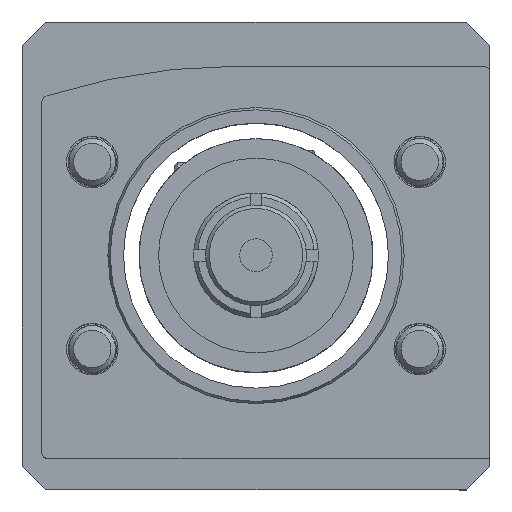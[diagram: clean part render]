
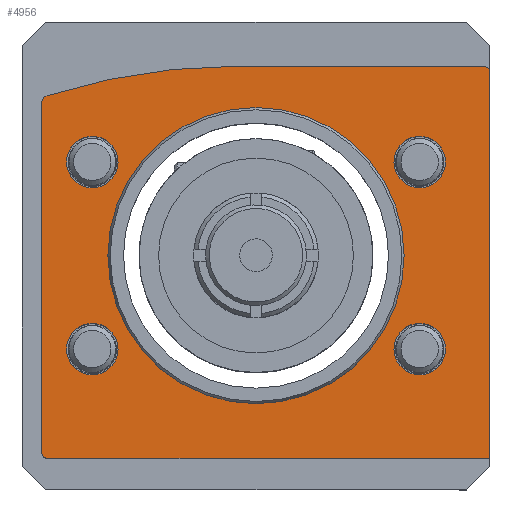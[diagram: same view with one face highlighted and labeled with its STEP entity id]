
A CAD part, top view. The second image highlights one B-rep face of the part: STEP entity #4956.
In plain terms, the highlighted planar face has unit normal (0, 0, 1).
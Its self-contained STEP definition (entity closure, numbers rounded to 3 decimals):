
#317=LINE('',#7690,#526);
#321=LINE('',#7702,#530);
#325=LINE('',#7714,#534);
#329=LINE('',#7725,#538);
#526=VECTOR('',#6073,31.7);
#530=VECTOR('',#6085,49.3);
#534=VECTOR('',#6097,56.5);
#538=VECTOR('',#6109,44.766);
#739=PLANE('',#5338);
#948=FACE_BOUND('',#1436,.T.);
#949=FACE_BOUND('',#1437,.T.);
#950=FACE_BOUND('',#1438,.T.);
#951=FACE_BOUND('',#1439,.T.);
#952=FACE_BOUND('',#1440,.T.);
#1074=FACE_OUTER_BOUND('',#1435,.T.);
#1435=EDGE_LOOP('',(#3497,#3498,#3499,#3500,#3501,#3502,#3503,#3504,#3505));
#1436=EDGE_LOOP('',(#3506));
#1437=EDGE_LOOP('',(#3507));
#1438=EDGE_LOOP('',(#3508));
#1439=EDGE_LOOP('',(#3509));
#1440=EDGE_LOOP('',(#3510));
#1865=CIRCLE('',#5293,3.3);
#1867=CIRCLE('',#5296,3.3);
#1869=CIRCLE('',#5299,3.3);
#1871=CIRCLE('',#5302,3.3);
#1875=CIRCLE('',#5308,19.);
#1880=CIRCLE('',#5319,1.);
#1882=CIRCLE('',#5322,80.);
#1884=CIRCLE('',#5326,0.8);
#1886=CIRCLE('',#5330,0.2);
#1888=CIRCLE('',#5334,0.8);
#2224=VERTEX_POINT('',#7633);
#2226=VERTEX_POINT('',#7638);
#2228=VERTEX_POINT('',#7643);
#2230=VERTEX_POINT('',#7648);
#2234=VERTEX_POINT('',#7658);
#2239=VERTEX_POINT('',#7674);
#2240=VERTEX_POINT('',#7675);
#2243=VERTEX_POINT('',#7683);
#2245=VERTEX_POINT('',#7689);
#2247=VERTEX_POINT('',#7695);
#2249=VERTEX_POINT('',#7701);
#2251=VERTEX_POINT('',#7707);
#2253=VERTEX_POINT('',#7713);
#2255=VERTEX_POINT('',#7719);
#2708=EDGE_CURVE('',#2224,#2224,#1865,.T.);
#2710=EDGE_CURVE('',#2226,#2226,#1867,.T.);
#2712=EDGE_CURVE('',#2228,#2228,#1869,.T.);
#2714=EDGE_CURVE('',#2230,#2230,#1871,.T.);
#2718=EDGE_CURVE('',#2234,#2234,#1875,.T.);
#2723=EDGE_CURVE('',#2239,#2240,#1880,.T.);
#2727=EDGE_CURVE('',#2240,#2243,#1882,.T.);
#2730=EDGE_CURVE('',#2243,#2245,#317,.T.);
#2733=EDGE_CURVE('',#2245,#2247,#1884,.T.);
#2736=EDGE_CURVE('',#2247,#2249,#321,.T.);
#2739=EDGE_CURVE('',#2249,#2251,#1886,.T.);
#2742=EDGE_CURVE('',#2251,#2253,#325,.T.);
#2745=EDGE_CURVE('',#2253,#2255,#1888,.T.);
#2748=EDGE_CURVE('',#2255,#2239,#329,.T.);
#3497=ORIENTED_EDGE('',*,*,#2723,.F.);
#3498=ORIENTED_EDGE('',*,*,#2748,.F.);
#3499=ORIENTED_EDGE('',*,*,#2745,.F.);
#3500=ORIENTED_EDGE('',*,*,#2742,.F.);
#3501=ORIENTED_EDGE('',*,*,#2739,.F.);
#3502=ORIENTED_EDGE('',*,*,#2736,.F.);
#3503=ORIENTED_EDGE('',*,*,#2733,.F.);
#3504=ORIENTED_EDGE('',*,*,#2730,.F.);
#3505=ORIENTED_EDGE('',*,*,#2727,.F.);
#3506=ORIENTED_EDGE('',*,*,#2708,.T.);
#3507=ORIENTED_EDGE('',*,*,#2710,.T.);
#3508=ORIENTED_EDGE('',*,*,#2712,.T.);
#3509=ORIENTED_EDGE('',*,*,#2714,.T.);
#3510=ORIENTED_EDGE('',*,*,#2718,.T.);
#4956=ADVANCED_FACE('',(#1074,#948,#949,#950,#951,#952),#739,.T.);
#5293=AXIS2_PLACEMENT_3D('',#7634,#6006,#6007);
#5296=AXIS2_PLACEMENT_3D('',#7639,#6012,#6013);
#5299=AXIS2_PLACEMENT_3D('',#7644,#6018,#6019);
#5302=AXIS2_PLACEMENT_3D('',#7649,#6024,#6025);
#5308=AXIS2_PLACEMENT_3D('',#7659,#6036,#6037);
#5319=AXIS2_PLACEMENT_3D('',#7676,#6058,#6059);
#5322=AXIS2_PLACEMENT_3D('',#7684,#6066,#6067);
#5326=AXIS2_PLACEMENT_3D('',#7696,#6078,#6079);
#5330=AXIS2_PLACEMENT_3D('',#7708,#6090,#6091);
#5334=AXIS2_PLACEMENT_3D('',#7720,#6102,#6103);
#5338=AXIS2_PLACEMENT_3D('',#7728,#6113,#6114);
#6006=DIRECTION('center_axis',(0.,0.,-1.));
#6007=DIRECTION('ref_axis',(0.,1.,0.));
#6012=DIRECTION('center_axis',(0.,0.,-1.));
#6013=DIRECTION('ref_axis',(0.,1.,0.));
#6018=DIRECTION('center_axis',(0.,0.,-1.));
#6019=DIRECTION('ref_axis',(0.,1.,0.));
#6024=DIRECTION('center_axis',(0.,0.,-1.));
#6025=DIRECTION('ref_axis',(0.,1.,0.));
#6036=DIRECTION('center_axis',(0.,0.,-1.));
#6037=DIRECTION('ref_axis',(0.,1.,0.));
#6058=DIRECTION('center_axis',(0.,0.,-1.));
#6059=DIRECTION('ref_axis',(-0.304,0.953,0.));
#6066=DIRECTION('center_axis',(0.,0.,-1.));
#6067=DIRECTION('ref_axis',(0.,1.,0.));
#6073=DIRECTION('',(1.,0.,0.));
#6078=DIRECTION('center_axis',(0.,0.,-1.));
#6079=DIRECTION('ref_axis',(1.,0.,0.));
#6085=DIRECTION('',(0.,-1.,0.));
#6090=DIRECTION('center_axis',(0.,0.,-1.));
#6091=DIRECTION('ref_axis',(0.,-1.,0.));
#6097=DIRECTION('',(-1.,0.,0.));
#6102=DIRECTION('center_axis',(0.,0.,-1.));
#6103=DIRECTION('ref_axis',(-1.,0.,0.));
#6109=DIRECTION('',(0.,1.,0.));
#6113=DIRECTION('center_axis',(0.,0.,1.));
#6114=DIRECTION('ref_axis',(1.,0.,0.));
#7633=CARTESIAN_POINT('',(-21.,15.3,16.5));
#7634=CARTESIAN_POINT('Origin',(-21.,12.,16.5));
#7638=CARTESIAN_POINT('',(-21.,-8.7,16.5));
#7639=CARTESIAN_POINT('Origin',(-21.,-12.,16.5));
#7643=CARTESIAN_POINT('',(21.,-8.7,16.5));
#7644=CARTESIAN_POINT('Origin',(21.,-12.,16.5));
#7648=CARTESIAN_POINT('',(21.,15.3,16.5));
#7649=CARTESIAN_POINT('Origin',(21.,12.,16.5));
#7658=CARTESIAN_POINT('',(0.,-19.,16.5));
#7659=CARTESIAN_POINT('Origin',(0.,0.,16.5));
#7674=CARTESIAN_POINT('',(-27.5,19.566,16.5));
#7675=CARTESIAN_POINT('',(-26.804,20.519,16.5));
#7676=CARTESIAN_POINT('Origin',(-26.5,19.566,16.5));
#7683=CARTESIAN_POINT('',(-2.5,24.3,16.5));
#7684=CARTESIAN_POINT('Origin',(-2.5,-55.7,16.5));
#7689=CARTESIAN_POINT('',(29.2,24.3,16.5));
#7690=CARTESIAN_POINT('',(29.2,24.3,16.5));
#7695=CARTESIAN_POINT('',(30.,23.5,16.5));
#7696=CARTESIAN_POINT('Origin',(29.2,23.5,16.5));
#7701=CARTESIAN_POINT('',(30.,-25.8,16.5));
#7702=CARTESIAN_POINT('',(30.,-25.8,16.5));
#7707=CARTESIAN_POINT('',(29.8,-26.,16.5));
#7708=CARTESIAN_POINT('Origin',(29.8,-25.8,16.5));
#7713=CARTESIAN_POINT('',(-26.7,-26.,16.5));
#7714=CARTESIAN_POINT('',(-26.7,-26.,16.5));
#7719=CARTESIAN_POINT('',(-27.5,-25.2,16.5));
#7720=CARTESIAN_POINT('Origin',(-26.7,-25.2,16.5));
#7725=CARTESIAN_POINT('',(-27.5,19.566,16.5));
#7728=CARTESIAN_POINT('Origin',(1.767,-1.417,16.5));
